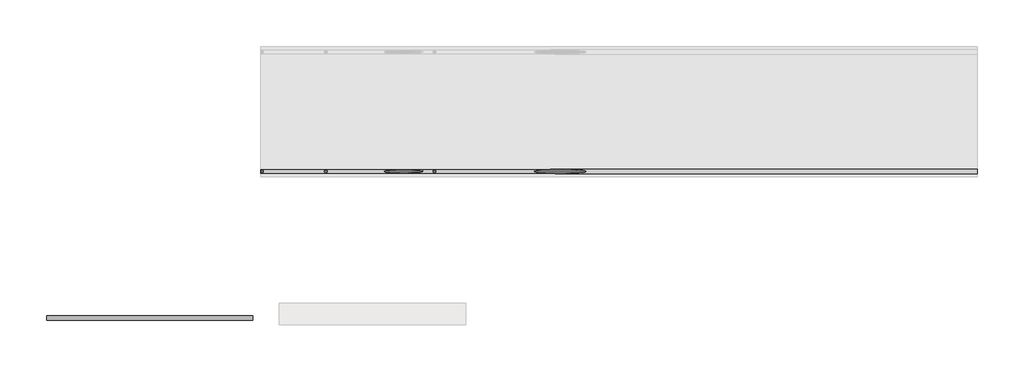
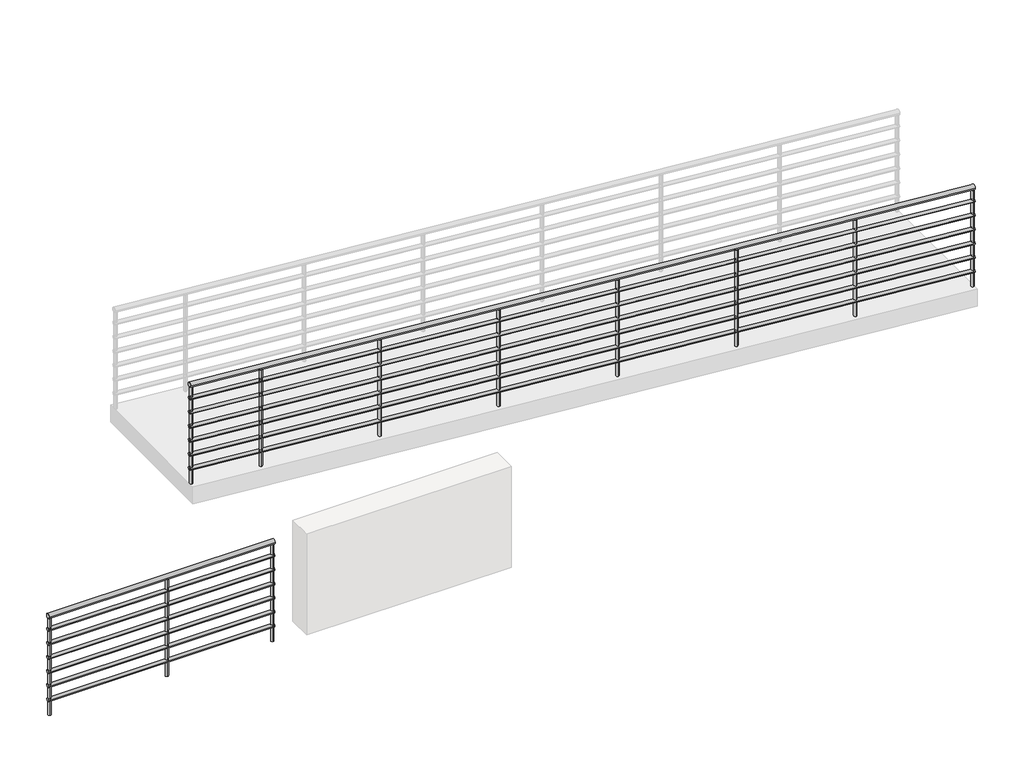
# One storey, part 2 of 3: 2 railings.
"""IFC4 building model written with IfcOpenShell, lengths in millimetres."""

from ifc_helpers import new_model, si_unit, point, frame, frame_2d, origin, place, context, project, spatial, circle_curve, ellipse_curve, trimmed, segment, composite_curve, outline, extrude, element, save
from ifc_brep_helpers import plane_surface, cylinder_surface, advanced_brep

model = new_model("IFC4")

# Units and contexts
model_context = context("Model", 3, world=origin())
ifc_project = project(units=[si_unit("LENGTHUNIT", "METRE", prefix="MILLI")], contexts=[model_context])

# Site, building, storey
site = spatial("IfcSite", under=ifc_project)
building = spatial("IfcBuilding", under=site)
storey = spatial("IfcBuildingStorey", under=building, Name="00-NBeS SITE/FIRE APPLIANCE ACCESS LEVEL", Elevation=-300.0)

# Railings
placement = place(None, origin())
element("IfcRailing", 1, ObjectType="900mm Pipe", at=placement, inside=storey, context=model_context, shape_type="SweptSolid", body=[
    extrude(outline(composite_curve([segment(trimmed(circle_curve(frame_2d((-14390.7713503, 580.0)), 20.0), [point((-14410.7713503, 580.0))], [point((-14370.7713503, 580.0))], False, "CARTESIAN"), True, "CONTINUOUS"), segment(trimmed(circle_curve(frame_2d((-14390.7713503, 580.0)), 20.0), [point((-14370.7713503, 580.0))], [point((-14410.7713503, 580.0))], False, "CARTESIAN"), True, "CONTINUOUS")], self_intersect=False)), frame((-86889.0756201, 0.0, 0.0), z_axis=(1.0, 0.0, 0.0), x_axis=(0.0, 1.0, 0.0)), (0.0, 0.0, 1.0), 1900.0),
    extrude(outline(composite_curve([segment(trimmed(circle_curve(frame_2d((-14390.7713503, 460.0)), 15.0), [point((-14375.7713503, 460.0))], [point((-14405.7713503, 460.0))], False, "CARTESIAN"), True, "CONTINUOUS"), segment(trimmed(circle_curve(frame_2d((-14390.7713503, 460.0)), 15.0), [point((-14405.7713503, 460.0))], [point((-14375.7713503, 460.0))], False, "CARTESIAN"), True, "CONTINUOUS")], self_intersect=False)), frame((-86889.0756201, 0.0, 0.0), z_axis=(1.0, 0.0, 0.0), x_axis=(0.0, 1.0, 0.0)), (0.0, 0.0, 1.0), 1900.0),
    extrude(outline(composite_curve([segment(trimmed(circle_curve(frame_2d((-14390.7713503, 335.0)), 15.0), [point((-14375.7713503, 335.0))], [point((-14405.7713503, 335.0))], False, "CARTESIAN"), True, "CONTINUOUS"), segment(trimmed(circle_curve(frame_2d((-14390.7713503, 335.0)), 15.0), [point((-14405.7713503, 335.0))], [point((-14375.7713503, 335.0))], False, "CARTESIAN"), True, "CONTINUOUS")], self_intersect=False)), frame((-86889.0756201, 0.0, 0.0), z_axis=(1.0, 0.0, 0.0), x_axis=(0.0, 1.0, 0.0)), (0.0, 0.0, 1.0), 1900.0),
    extrude(outline(composite_curve([segment(trimmed(circle_curve(frame_2d((-14390.7713503, 210.0)), 15.0), [point((-14375.7713503, 210.0))], [point((-14405.7713503, 210.0))], False, "CARTESIAN"), True, "CONTINUOUS"), segment(trimmed(circle_curve(frame_2d((-14390.7713503, 210.0)), 15.0), [point((-14405.7713503, 210.0))], [point((-14375.7713503, 210.0))], False, "CARTESIAN"), True, "CONTINUOUS")], self_intersect=False)), frame((-86889.0756201, 0.0, 0.0), z_axis=(1.0, 0.0, 0.0), x_axis=(0.0, 1.0, 0.0)), (0.0, 0.0, 1.0), 1900.0),
    extrude(outline(composite_curve([segment(trimmed(circle_curve(frame_2d((-14390.7713503, 85.0)), 15.0), [point((-14375.7713503, 85.0))], [point((-14405.7713503, 85.0))], False, "CARTESIAN"), True, "CONTINUOUS"), segment(trimmed(circle_curve(frame_2d((-14390.7713503, 85.0)), 15.0), [point((-14405.7713503, 85.0))], [point((-14375.7713503, 85.0))], False, "CARTESIAN"), True, "CONTINUOUS")], self_intersect=False)), frame((-86889.0756201, 0.0, 0.0), z_axis=(1.0, 0.0, 0.0), x_axis=(0.0, 1.0, 0.0)), (0.0, 0.0, 1.0), 1900.0),
    extrude(outline(composite_curve([segment(trimmed(circle_curve(frame_2d((-14390.7713503, -40.0)), 15.0), [point((-14375.7713503, -40.0))], [point((-14405.7713503, -40.0))], False, "CARTESIAN"), True, "CONTINUOUS"), segment(trimmed(circle_curve(frame_2d((-14390.7713503, -40.0)), 15.0), [point((-14405.7713503, -40.0))], [point((-14375.7713503, -40.0))], False, "CARTESIAN"), True, "CONTINUOUS")], self_intersect=False)), frame((-86889.0756201, 0.0, 0.0), z_axis=(1.0, 0.0, 0.0), x_axis=(0.0, 1.0, 0.0)), (0.0, 0.0, 1.0), 1900.0),
    extrude(outline(composite_curve([segment(trimmed(circle_curve(frame_2d((-14390.7713503, -165.0)), 15.0), [point((-14375.7713503, -165.0))], [point((-14405.7713503, -165.0))], False, "CARTESIAN"), True, "CONTINUOUS"), segment(trimmed(circle_curve(frame_2d((-14390.7713503, -165.0)), 15.0), [point((-14405.7713503, -165.0))], [point((-14375.7713503, -165.0))], False, "CARTESIAN"), True, "CONTINUOUS")], self_intersect=False)), frame((-86889.0756201, 0.0, 0.0), z_axis=(1.0, 0.0, 0.0), x_axis=(0.0, 1.0, 0.0)), (0.0, 0.0, 1.0), 1900.0),
    extrude(outline(composite_curve([segment(trimmed(circle_curve(frame_2d((-85889.0756201, -14390.7713503)), 12.5), [point((-85889.0756201, -14378.2713503))], [point((-85889.0756201, -14403.2713503))], False, "CARTESIAN"), True, "CONTINUOUS"), segment(trimmed(circle_curve(frame_2d((-85889.0756201, -14390.7713503)), 12.5), [point((-85889.0756201, -14403.2713503))], [point((-85889.0756201, -14378.2713503))], False, "CARTESIAN"), True, "CONTINUOUS")], self_intersect=False)), frame((0.0, 0.0, -300.0), z_axis=(0.0, 0.0, 1.0), x_axis=(1.0, 0.0, 0.0)), (0.0, 0.0, 1.0), 860.0),
    extrude(outline(composite_curve([segment(trimmed(circle_curve(frame_2d((-85001.5756201, -14390.7713503)), 12.5), [point((-85001.5756201, -14378.2713503))], [point((-85001.5756201, -14403.2713503))], False, "CARTESIAN"), True, "CONTINUOUS"), segment(trimmed(circle_curve(frame_2d((-85001.5756201, -14390.7713503)), 12.5), [point((-85001.5756201, -14403.2713503))], [point((-85001.5756201, -14378.2713503))], False, "CARTESIAN"), True, "CONTINUOUS")], self_intersect=False)), frame((0.0, 0.0, -300.0), z_axis=(0.0, 0.0, 1.0), x_axis=(1.0, 0.0, 0.0)), (0.0, 0.0, 1.0), 860.0),
    extrude(outline(composite_curve([segment(trimmed(circle_curve(frame_2d((-86876.5756201, -14390.7713503)), 12.5), [point((-86876.5756201, -14378.2713503))], [point((-86876.5756201, -14403.2713503))], False, "CARTESIAN"), True, "CONTINUOUS"), segment(trimmed(circle_curve(frame_2d((-86876.5756201, -14390.7713503)), 12.5), [point((-86876.5756201, -14403.2713503))], [point((-86876.5756201, -14378.2713503))], False, "CARTESIAN"), True, "CONTINUOUS")], self_intersect=False)), frame((0.0, 0.0, -300.0), z_axis=(0.0, 0.0, 1.0), x_axis=(1.0, 0.0, 0.0)), (0.0, 0.0, 1.0), 860.0),
])
element("IfcRailing", 2, ObjectType="900mm Pipe", at=placement, inside=storey, context=model_context, shape_type="AdvancedBrep", body=[
    advanced_brep(
    [(-78318.4618294, -13020.679374, 579.9306757), (-78318.4618294, -13060.679374, 579.9306757), (-84918.4618294, -13020.679374, 1129.9306757), (-84918.4618294, -13060.679374, 1129.9306757)],
    [
        (0, 1, ellipse_curve(frame((-78318.4618294, -13040.679374, 579.9306757), z_axis=(1.0, 0.0, 0.0), x_axis=(0.0, 0.0, -0.9999999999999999)), 20.0693243, 20.0)),
        (1, 0, ellipse_curve(frame((-78318.4618294, -13040.679374, 579.9306757), z_axis=(1.0, 0.0, 0.0), x_axis=(0.0, 0.0, -0.9999999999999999)), 20.0693243, 20.0)),
        (2, 3, ellipse_curve(frame((-84918.4618294, -13040.679374, 1129.9306757), z_axis=(-1.0, 0.0, 0.0), x_axis=(0.0, 0.0, -0.9999999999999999)), 20.0693243, 20.0)),
        (3, 2, ellipse_curve(frame((-84918.4618294, -13040.679374, 1129.9306757), z_axis=(-1.0, 0.0, 0.0), x_axis=(0.0, 0.0, -0.9999999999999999)), 20.0693243, 20.0)),
        (0, 2),
        (3, 1),
    ],
    [
        plane_surface(frame((-78318.4618294, -13040.679374, 600.0), z_axis=(1.0, 0.0, 0.0), x_axis=(0.0, -1.0, 0.0))),
        plane_surface(frame((-84918.4618294, -13040.679374, 1150.0), z_axis=(-1.0, 0.0, 0.0), x_axis=(0.0, -1.0, 0.0))),
        cylinder_surface(frame((-78320.122739, -13040.679374, 580.0690848), z_axis=(0.9965457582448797, 0.0, -0.08304547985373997), x_axis=(0.0, -1.0, 0.0)), 20.0),
    ],
    [
        (0, [[1, 2]]),
        (1, [[3, 4]]),
        (2, [[-1, 5, -4, 6]]),
        (2, [[-2, -6, -3, -5]]),
    ],
),
    advanced_brep(
    [(-78318.4618294, -13055.679374, 459.9480068), (-78318.4618294, -13025.679374, 459.9480068), (-84918.4618294, -13055.679374, 1009.9480068), (-84918.4618294, -13025.679374, 1009.9480068)],
    [
        (0, 1, ellipse_curve(frame((-78318.4618294, -13040.679374, 459.9480068), z_axis=(1.0, 0.0, 0.0), x_axis=(0.0, 0.0, -0.9999999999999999)), 15.0519932, 15.0)),
        (1, 0, ellipse_curve(frame((-78318.4618294, -13040.679374, 459.9480068), z_axis=(1.0, 0.0, 0.0), x_axis=(0.0, 0.0, -0.9999999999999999)), 15.0519932, 15.0)),
        (2, 3, ellipse_curve(frame((-84918.4618294, -13040.679374, 1009.9480068), z_axis=(-1.0, 0.0, 0.0), x_axis=(0.0, 0.0, -0.9999999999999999)), 15.0519932, 15.0)),
        (3, 2, ellipse_curve(frame((-84918.4618294, -13040.679374, 1009.9480068), z_axis=(-1.0, 0.0, 0.0), x_axis=(0.0, 0.0, -0.9999999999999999)), 15.0519932, 15.0)),
        (0, 2),
        (3, 1),
    ],
    [
        plane_surface(frame((-78318.4618294, -13040.679374, 475.0), z_axis=(1.0, 0.0, 0.0), x_axis=(0.0, -1.0, 0.0))),
        plane_surface(frame((-84918.4618294, -13040.679374, 1025.0), z_axis=(-1.0, 0.0, 0.0), x_axis=(0.0, -1.0, 0.0))),
        cylinder_surface(frame((-78319.7075116, -13040.679374, 460.0518136), z_axis=(0.9965457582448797, 0.0, -0.08304547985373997), x_axis=(0.0, 1.0, 0.0)), 15.0),
    ],
    [
        (0, [[1, 2]]),
        (1, [[3, 4]]),
        (2, [[-1, 5, -4, 6]]),
        (2, [[-2, -6, -3, -5]]),
    ],
),
    advanced_brep(
    [(-78318.4618294, -13055.679374, 334.9480068), (-78318.4618294, -13025.679374, 334.9480068), (-84918.4618294, -13055.679374, 884.9480068), (-84918.4618294, -13025.679374, 884.9480068)],
    [
        (0, 1, ellipse_curve(frame((-78318.4618294, -13040.679374, 334.9480068), z_axis=(1.0, 0.0, 0.0), x_axis=(0.0, 0.0, -0.9999999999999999)), 15.0519932, 15.0)),
        (1, 0, ellipse_curve(frame((-78318.4618294, -13040.679374, 334.9480068), z_axis=(1.0, 0.0, 0.0), x_axis=(0.0, 0.0, -0.9999999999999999)), 15.0519932, 15.0)),
        (2, 3, ellipse_curve(frame((-84918.4618294, -13040.679374, 884.9480068), z_axis=(-1.0, 0.0, 0.0), x_axis=(0.0, 0.0, -0.9999999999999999)), 15.0519932, 15.0)),
        (3, 2, ellipse_curve(frame((-84918.4618294, -13040.679374, 884.9480068), z_axis=(-1.0, 0.0, 0.0), x_axis=(0.0, 0.0, -0.9999999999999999)), 15.0519932, 15.0)),
        (0, 2),
        (3, 1),
    ],
    [
        plane_surface(frame((-78318.4618294, -13040.679374, 350.0), z_axis=(1.0, 0.0, 0.0), x_axis=(0.0, -1.0, 0.0))),
        plane_surface(frame((-84918.4618294, -13040.679374, 900.0), z_axis=(-1.0, 0.0, 0.0), x_axis=(0.0, -1.0, 0.0))),
        cylinder_surface(frame((-78319.7075116, -13040.679374, 335.0518136), z_axis=(0.9965457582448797, 0.0, -0.08304547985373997), x_axis=(0.0, 1.0, 0.0)), 15.0),
    ],
    [
        (0, [[1, 2]]),
        (1, [[3, 4]]),
        (2, [[-1, 5, -4, 6]]),
        (2, [[-2, -6, -3, -5]]),
    ],
),
    advanced_brep(
    [(-78318.4618294, -13055.679374, 209.9480068), (-78318.4618294, -13025.679374, 209.9480068), (-84918.4618294, -13055.679374, 759.9480068), (-84918.4618294, -13025.679374, 759.9480068)],
    [
        (0, 1, ellipse_curve(frame((-78318.4618294, -13040.679374, 209.9480068), z_axis=(1.0, 0.0, 0.0), x_axis=(0.0, 0.0, -0.9999999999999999)), 15.0519932, 15.0)),
        (1, 0, ellipse_curve(frame((-78318.4618294, -13040.679374, 209.9480068), z_axis=(1.0, 0.0, 0.0), x_axis=(0.0, 0.0, -0.9999999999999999)), 15.0519932, 15.0)),
        (2, 3, ellipse_curve(frame((-84918.4618294, -13040.679374, 759.9480068), z_axis=(-1.0, 0.0, 0.0), x_axis=(0.0, 0.0, -0.9999999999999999)), 15.0519932, 15.0)),
        (3, 2, ellipse_curve(frame((-84918.4618294, -13040.679374, 759.9480068), z_axis=(-1.0, 0.0, 0.0), x_axis=(0.0, 0.0, -0.9999999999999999)), 15.0519932, 15.0)),
        (0, 2),
        (3, 1),
    ],
    [
        plane_surface(frame((-78318.4618294, -13040.679374, 225.0), z_axis=(1.0, 0.0, 0.0), x_axis=(0.0, -1.0, 0.0))),
        plane_surface(frame((-84918.4618294, -13040.679374, 775.0), z_axis=(-1.0, 0.0, 0.0), x_axis=(0.0, -1.0, 0.0))),
        cylinder_surface(frame((-78319.7075116, -13040.679374, 210.0518136), z_axis=(0.9965457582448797, 0.0, -0.08304547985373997), x_axis=(0.0, 1.0, 0.0)), 15.0),
    ],
    [
        (0, [[1, 2]]),
        (1, [[3, 4]]),
        (2, [[-1, 5, -4, 6]]),
        (2, [[-2, -6, -3, -5]]),
    ],
),
    advanced_brep(
    [(-78318.4618294, -13055.679374, 84.9480068), (-78318.4618294, -13025.679374, 84.9480068), (-84918.4618294, -13055.679374, 634.9480068), (-84918.4618294, -13025.679374, 634.9480068)],
    [
        (0, 1, ellipse_curve(frame((-78318.4618294, -13040.679374, 84.9480068), z_axis=(1.0, 0.0, 0.0), x_axis=(0.0, 0.0, -0.9999999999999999)), 15.0519932, 15.0)),
        (1, 0, ellipse_curve(frame((-78318.4618294, -13040.679374, 84.9480068), z_axis=(1.0, 0.0, 0.0), x_axis=(0.0, 0.0, -0.9999999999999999)), 15.0519932, 15.0)),
        (2, 3, ellipse_curve(frame((-84918.4618294, -13040.679374, 634.9480068), z_axis=(-1.0, 0.0, 0.0), x_axis=(0.0, 0.0, -0.9999999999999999)), 15.0519932, 15.0)),
        (3, 2, ellipse_curve(frame((-84918.4618294, -13040.679374, 634.9480068), z_axis=(-1.0, 0.0, 0.0), x_axis=(0.0, 0.0, -0.9999999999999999)), 15.0519932, 15.0)),
        (0, 2),
        (3, 1),
    ],
    [
        plane_surface(frame((-78318.4618294, -13040.679374, 100.0), z_axis=(1.0, 0.0, 0.0), x_axis=(0.0, -1.0, 0.0))),
        plane_surface(frame((-84918.4618294, -13040.679374, 650.0), z_axis=(-1.0, 0.0, 0.0), x_axis=(0.0, -1.0, 0.0))),
        cylinder_surface(frame((-78319.7075116, -13040.679374, 85.0518136), z_axis=(0.9965457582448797, 0.0, -0.08304547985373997), x_axis=(0.0, 1.0, 0.0)), 15.0),
    ],
    [
        (0, [[1, 2]]),
        (1, [[3, 4]]),
        (2, [[-1, 5, -4, 6]]),
        (2, [[-2, -6, -3, -5]]),
    ],
),
    advanced_brep(
    [(-78318.4618294, -13055.679374, -40.0519932), (-78318.4618294, -13025.679374, -40.0519932), (-84918.4618294, -13055.679374, 509.9480068), (-84918.4618294, -13025.679374, 509.9480068)],
    [
        (0, 1, ellipse_curve(frame((-78318.4618294, -13040.679374, -40.0519932), z_axis=(1.0, 0.0, 0.0), x_axis=(0.0, 0.0, -0.9999999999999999)), 15.0519932, 15.0)),
        (1, 0, ellipse_curve(frame((-78318.4618294, -13040.679374, -40.0519932), z_axis=(1.0, 0.0, 0.0), x_axis=(0.0, 0.0, -0.9999999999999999)), 15.0519932, 15.0)),
        (2, 3, ellipse_curve(frame((-84918.4618294, -13040.679374, 509.9480068), z_axis=(-1.0, 0.0, 0.0), x_axis=(0.0, 0.0, -0.9999999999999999)), 15.0519932, 15.0)),
        (3, 2, ellipse_curve(frame((-84918.4618294, -13040.679374, 509.9480068), z_axis=(-1.0, 0.0, 0.0), x_axis=(0.0, 0.0, -0.9999999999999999)), 15.0519932, 15.0)),
        (0, 2),
        (3, 1),
    ],
    [
        plane_surface(frame((-78318.4618294, -13040.679374, -25.0), z_axis=(1.0, 0.0, 0.0), x_axis=(0.0, -1.0, 0.0))),
        plane_surface(frame((-84918.4618294, -13040.679374, 525.0), z_axis=(-1.0, 0.0, 0.0), x_axis=(0.0, -1.0, 0.0))),
        cylinder_surface(frame((-78319.7075116, -13040.679374, -39.9481864), z_axis=(0.9965457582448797, 0.0, -0.08304547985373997), x_axis=(0.0, 1.0, 0.0)), 15.0),
    ],
    [
        (0, [[1, 2]]),
        (1, [[3, 4]]),
        (2, [[-1, 5, -4, 6]]),
        (2, [[-2, -6, -3, -5]]),
    ],
),
    advanced_brep(
    [(-78318.4618294, -13055.679374, -165.0519932), (-78318.4618294, -13025.679374, -165.0519932), (-84918.4618294, -13055.679374, 384.9480068), (-84918.4618294, -13025.679374, 384.9480068)],
    [
        (0, 1, ellipse_curve(frame((-78318.4618294, -13040.679374, -165.0519932), z_axis=(1.0, 0.0, 0.0), x_axis=(0.0, 0.0, -0.9999999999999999)), 15.0519932, 15.0)),
        (1, 0, ellipse_curve(frame((-78318.4618294, -13040.679374, -165.0519932), z_axis=(1.0, 0.0, 0.0), x_axis=(0.0, 0.0, -0.9999999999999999)), 15.0519932, 15.0)),
        (2, 3, ellipse_curve(frame((-84918.4618294, -13040.679374, 384.9480068), z_axis=(-1.0, 0.0, 0.0), x_axis=(0.0, 0.0, -0.9999999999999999)), 15.0519932, 15.0)),
        (3, 2, ellipse_curve(frame((-84918.4618294, -13040.679374, 384.9480068), z_axis=(-1.0, 0.0, 0.0), x_axis=(0.0, 0.0, -0.9999999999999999)), 15.0519932, 15.0)),
        (0, 2),
        (3, 1),
    ],
    [
        plane_surface(frame((-78318.4618294, -13040.679374, -150.0), z_axis=(1.0, 0.0, 0.0), x_axis=(0.0, -1.0, 0.0))),
        plane_surface(frame((-84918.4618294, -13040.679374, 400.0), z_axis=(-1.0, 0.0, 0.0), x_axis=(0.0, -1.0, 0.0))),
        cylinder_surface(frame((-78319.7075116, -13040.679374, -164.9481864), z_axis=(0.9965457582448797, 0.0, -0.08304547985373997), x_axis=(0.0, 1.0, 0.0)), 15.0),
    ],
    [
        (0, [[1, 2]]),
        (1, [[3, 4]]),
        (2, [[-1, 5, -4, 6]]),
        (2, [[-2, -6, -3, -5]]),
    ],
),
    advanced_brep(
    [(-84318.4618294, -13028.179374, 1059.8613514), (-84318.4618294, -13028.179374, 200.0), (-84318.4618294, -13053.179374, 200.0), (-84318.4618294, -13053.179374, 1059.8613514)],
    [
        (0, 1),
        (1, 2, ellipse_curve(frame((-84318.4618294, -13040.679374, 200.0), z_axis=(0.08304547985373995, 0.0, 0.9965457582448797), x_axis=(-0.9965457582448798, 0.0, 0.08304547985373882)), 12.5433277, 12.5)),
        (2, 3),
        (3, 0, ellipse_curve(frame((-84318.4618294, -13040.679374, 1059.8613514), z_axis=(-0.08304547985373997, 0.0, -0.9965457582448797), x_axis=(-0.9965457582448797, 0.0, 0.0830454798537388)), 12.5433277, 12.5)),
        (0, 3, ellipse_curve(frame((-84318.4618294, -13040.679374, 1059.8613514), z_axis=(-0.08304547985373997, 0.0, -0.9965457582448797), x_axis=(-0.9965457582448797, 0.0, 0.0830454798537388)), 12.5433277, 12.5)),
        (2, 1, ellipse_curve(frame((-84318.4618294, -13040.679374, 200.0), z_axis=(0.08304547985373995, 0.0, 0.9965457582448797), x_axis=(-0.9965457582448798, 0.0, 0.08304547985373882)), 12.5433277, 12.5)),
    ],
    [
        cylinder_surface(frame((-84318.4618294, -13040.679374, 100.0), z_axis=(0.0, 0.0, 1.0), x_axis=(0.0, -1.0, 0.0)), 12.5),
        plane_surface(frame((-84343.4618294, -13065.679374, 1061.9446847), z_axis=(0.08304547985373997, 0.0, 0.9965457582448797), x_axis=(0.0, 1.0, 0.0))),
        plane_surface(frame((-84293.4618294, -13065.679374, 197.9166667), z_axis=(-0.08304547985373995, 0.0, -0.9965457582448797), x_axis=(0.0, 1.0, 0.0))),
    ],
    [
        (0, [[1, 2, 3, 4]]),
        (0, [[-1, 5, -3, 6]]),
        (1, [[-4, -5]]),
        (2, [[-2, -6]]),
    ],
),
    advanced_brep(
    [(-83318.4618294, -13028.179374, 976.5280181), (-83318.4618294, -13028.179374, 116.6666667), (-83318.4618294, -13053.179374, 116.6666667), (-83318.4618294, -13053.179374, 976.5280181)],
    [
        (0, 1),
        (1, 2, ellipse_curve(frame((-83318.4618294, -13040.679374, 116.6666667), z_axis=(0.08304547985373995, 0.0, 0.9965457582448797), x_axis=(-0.9965457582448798, 0.0, 0.08304547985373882)), 12.5433277, 12.5)),
        (2, 3),
        (3, 0, ellipse_curve(frame((-83318.4618294, -13040.679374, 976.5280181), z_axis=(-0.08304547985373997, 0.0, -0.9965457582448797), x_axis=(-0.9965457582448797, 0.0, 0.0830454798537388)), 12.5433277, 12.5)),
        (0, 3, ellipse_curve(frame((-83318.4618294, -13040.679374, 976.5280181), z_axis=(-0.08304547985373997, 0.0, -0.9965457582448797), x_axis=(-0.9965457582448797, 0.0, 0.0830454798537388)), 12.5433277, 12.5)),
        (2, 1, ellipse_curve(frame((-83318.4618294, -13040.679374, 116.6666667), z_axis=(0.08304547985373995, 0.0, 0.9965457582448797), x_axis=(-0.9965457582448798, 0.0, 0.08304547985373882)), 12.5433277, 12.5)),
    ],
    [
        cylinder_surface(frame((-83318.4618294, -13040.679374, 16.6666667), z_axis=(0.0, 0.0, 1.0), x_axis=(0.0, -1.0, 0.0)), 12.5),
        plane_surface(frame((-83343.4618294, -13065.679374, 978.6113514), z_axis=(0.08304547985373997, 0.0, 0.9965457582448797), x_axis=(0.0, 1.0, 0.0))),
        plane_surface(frame((-83293.4618294, -13065.679374, 114.5833333), z_axis=(-0.08304547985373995, 0.0, -0.9965457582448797), x_axis=(0.0, 1.0, 0.0))),
    ],
    [
        (0, [[1, 2, 3, 4]]),
        (0, [[-1, 5, -3, 6]]),
        (1, [[-4, -5]]),
        (2, [[-2, -6]]),
    ],
),
    advanced_brep(
    [(-82318.4618294, -13028.179374, 893.1946847), (-82318.4618294, -13028.179374, 33.3333333), (-82318.4618294, -13053.179374, 33.3333333), (-82318.4618294, -13053.179374, 893.1946847)],
    [
        (0, 1),
        (1, 2, ellipse_curve(frame((-82318.4618294, -13040.679374, 33.3333333), z_axis=(0.08304547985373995, 0.0, 0.9965457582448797), x_axis=(-0.9965457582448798, 0.0, 0.08304547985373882)), 12.5433277, 12.5)),
        (2, 3),
        (3, 0, ellipse_curve(frame((-82318.4618294, -13040.679374, 893.1946847), z_axis=(-0.08304547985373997, 0.0, -0.9965457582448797), x_axis=(-0.9965457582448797, 0.0, 0.0830454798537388)), 12.5433277, 12.5)),
        (0, 3, ellipse_curve(frame((-82318.4618294, -13040.679374, 893.1946847), z_axis=(-0.08304547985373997, 0.0, -0.9965457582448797), x_axis=(-0.9965457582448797, 0.0, 0.0830454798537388)), 12.5433277, 12.5)),
        (2, 1, ellipse_curve(frame((-82318.4618294, -13040.679374, 33.3333333), z_axis=(0.08304547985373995, 0.0, 0.9965457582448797), x_axis=(-0.9965457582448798, 0.0, 0.08304547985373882)), 12.5433277, 12.5)),
    ],
    [
        cylinder_surface(frame((-82318.4618294, -13040.679374, -66.6666667), z_axis=(0.0, 0.0, 1.0), x_axis=(0.0, -1.0, 0.0)), 12.5),
        plane_surface(frame((-82343.4618294, -13065.679374, 895.2780181), z_axis=(0.08304547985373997, 0.0, 0.9965457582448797), x_axis=(0.0, 1.0, 0.0))),
        plane_surface(frame((-82293.4618294, -13065.679374, 31.25), z_axis=(-0.08304547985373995, 0.0, -0.9965457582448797), x_axis=(0.0, 1.0, 0.0))),
    ],
    [
        (0, [[1, 2, 3, 4]]),
        (0, [[-1, 5, -3, 6]]),
        (1, [[-4, -5]]),
        (2, [[-2, -6]]),
    ],
),
    advanced_brep(
    [(-81318.4618294, -13028.179374, 809.8613514), (-81318.4618294, -13028.179374, -50.0), (-81318.4618294, -13053.179374, -50.0), (-81318.4618294, -13053.179374, 809.8613514)],
    [
        (0, 1),
        (1, 2, ellipse_curve(frame((-81318.4618294, -13040.679374, -50.0), z_axis=(0.08304547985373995, 0.0, 0.9965457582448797), x_axis=(-0.9965457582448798, 0.0, 0.08304547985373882)), 12.5433277, 12.5)),
        (2, 3),
        (3, 0, ellipse_curve(frame((-81318.4618294, -13040.679374, 809.8613514), z_axis=(-0.08304547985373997, 0.0, -0.9965457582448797), x_axis=(-0.9965457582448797, 0.0, 0.0830454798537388)), 12.5433277, 12.5)),
        (0, 3, ellipse_curve(frame((-81318.4618294, -13040.679374, 809.8613514), z_axis=(-0.08304547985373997, 0.0, -0.9965457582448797), x_axis=(-0.9965457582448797, 0.0, 0.0830454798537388)), 12.5433277, 12.5)),
        (2, 1, ellipse_curve(frame((-81318.4618294, -13040.679374, -50.0), z_axis=(0.08304547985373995, 0.0, 0.9965457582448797), x_axis=(-0.9965457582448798, 0.0, 0.08304547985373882)), 12.5433277, 12.5)),
    ],
    [
        cylinder_surface(frame((-81318.4618294, -13040.679374, -150.0), z_axis=(0.0, 0.0, 1.0), x_axis=(0.0, -1.0, 0.0)), 12.5),
        plane_surface(frame((-81343.4618294, -13065.679374, 811.9446847), z_axis=(0.08304547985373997, 0.0, 0.9965457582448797), x_axis=(0.0, 1.0, 0.0))),
        plane_surface(frame((-81293.4618294, -13065.679374, -52.0833333), z_axis=(-0.08304547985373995, 0.0, -0.9965457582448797), x_axis=(0.0, 1.0, 0.0))),
    ],
    [
        (0, [[1, 2, 3, 4]]),
        (0, [[-1, 5, -3, 6]]),
        (1, [[-4, -5]]),
        (2, [[-2, -6]]),
    ],
),
    advanced_brep(
    [(-80318.4618294, -13028.179374, 726.5280181), (-80318.4618294, -13028.179374, -133.3333333), (-80318.4618294, -13053.179374, -133.3333333), (-80318.4618294, -13053.179374, 726.5280181)],
    [
        (0, 1),
        (1, 2, ellipse_curve(frame((-80318.4618294, -13040.679374, -133.3333333), z_axis=(0.08304547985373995, 0.0, 0.9965457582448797), x_axis=(-0.9965457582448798, 0.0, 0.08304547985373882)), 12.5433277, 12.5)),
        (2, 3),
        (3, 0, ellipse_curve(frame((-80318.4618294, -13040.679374, 726.5280181), z_axis=(-0.08304547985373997, 0.0, -0.9965457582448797), x_axis=(-0.9965457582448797, 0.0, 0.0830454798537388)), 12.5433277, 12.5)),
        (0, 3, ellipse_curve(frame((-80318.4618294, -13040.679374, 726.5280181), z_axis=(-0.08304547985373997, 0.0, -0.9965457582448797), x_axis=(-0.9965457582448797, 0.0, 0.0830454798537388)), 12.5433277, 12.5)),
        (2, 1, ellipse_curve(frame((-80318.4618294, -13040.679374, -133.3333333), z_axis=(0.08304547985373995, 0.0, 0.9965457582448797), x_axis=(-0.9965457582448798, 0.0, 0.08304547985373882)), 12.5433277, 12.5)),
    ],
    [
        cylinder_surface(frame((-80318.4618294, -13040.679374, -233.3333333), z_axis=(0.0, 0.0, 1.0), x_axis=(0.0, -1.0, 0.0)), 12.5),
        plane_surface(frame((-80343.4618294, -13065.679374, 728.6113514), z_axis=(0.08304547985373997, 0.0, 0.9965457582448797), x_axis=(0.0, 1.0, 0.0))),
        plane_surface(frame((-80293.4618294, -13065.679374, -135.4166667), z_axis=(-0.08304547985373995, 0.0, -0.9965457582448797), x_axis=(0.0, 1.0, 0.0))),
    ],
    [
        (0, [[1, 2, 3, 4]]),
        (0, [[-1, 5, -3, 6]]),
        (1, [[-4, -5]]),
        (2, [[-2, -6]]),
    ],
),
    advanced_brep(
    [(-79318.4618294, -13028.179374, 643.1946847), (-79318.4618294, -13028.179374, -216.6666667), (-79318.4618294, -13053.179374, -216.6666667), (-79318.4618294, -13053.179374, 643.1946847)],
    [
        (0, 1),
        (1, 2, ellipse_curve(frame((-79318.4618294, -13040.679374, -216.6666667), z_axis=(0.08304547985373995, 0.0, 0.9965457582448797), x_axis=(-0.9965457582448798, 0.0, 0.08304547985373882)), 12.5433277, 12.5)),
        (2, 3),
        (3, 0, ellipse_curve(frame((-79318.4618294, -13040.679374, 643.1946847), z_axis=(-0.08304547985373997, 0.0, -0.9965457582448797), x_axis=(-0.9965457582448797, 0.0, 0.0830454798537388)), 12.5433277, 12.5)),
        (0, 3, ellipse_curve(frame((-79318.4618294, -13040.679374, 643.1946847), z_axis=(-0.08304547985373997, 0.0, -0.9965457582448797), x_axis=(-0.9965457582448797, 0.0, 0.0830454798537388)), 12.5433277, 12.5)),
        (2, 1, ellipse_curve(frame((-79318.4618294, -13040.679374, -216.6666667), z_axis=(0.08304547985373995, 0.0, 0.9965457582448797), x_axis=(-0.9965457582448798, 0.0, 0.08304547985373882)), 12.5433277, 12.5)),
    ],
    [
        cylinder_surface(frame((-79318.4618294, -13040.679374, -316.6666667), z_axis=(0.0, 0.0, 1.0), x_axis=(0.0, -1.0, 0.0)), 12.5),
        plane_surface(frame((-79343.4618294, -13065.679374, 645.2780181), z_axis=(0.08304547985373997, 0.0, 0.9965457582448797), x_axis=(0.0, 1.0, 0.0))),
        plane_surface(frame((-79293.4618294, -13065.679374, -218.75), z_axis=(-0.08304547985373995, 0.0, -0.9965457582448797), x_axis=(0.0, 1.0, 0.0))),
    ],
    [
        (0, [[1, 2, 3, 4]]),
        (0, [[-1, 5, -3, 6]]),
        (1, [[-4, -5]]),
        (2, [[-2, -6]]),
    ],
),
    advanced_brep(
    [(-84905.9618294, -13028.179374, 1108.8196847), (-84905.9618294, -13028.179374, 248.9583333), (-84905.9618294, -13053.179374, 248.9583333), (-84905.9618294, -13053.179374, 1108.8196847)],
    [
        (0, 1),
        (1, 2, ellipse_curve(frame((-84905.9618294, -13040.679374, 248.9583333), z_axis=(0.08304547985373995, 0.0, 0.9965457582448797), x_axis=(-0.9965457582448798, 0.0, 0.08304547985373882)), 12.5433277, 12.5)),
        (2, 3),
        (3, 0, ellipse_curve(frame((-84905.9618294, -13040.679374, 1108.8196847), z_axis=(-0.08304547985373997, 0.0, -0.9965457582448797), x_axis=(-0.9965457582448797, 0.0, 0.0830454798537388)), 12.5433277, 12.5)),
        (0, 3, ellipse_curve(frame((-84905.9618294, -13040.679374, 1108.8196847), z_axis=(-0.08304547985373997, 0.0, -0.9965457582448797), x_axis=(-0.9965457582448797, 0.0, 0.0830454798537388)), 12.5433277, 12.5)),
        (2, 1, ellipse_curve(frame((-84905.9618294, -13040.679374, 248.9583333), z_axis=(0.08304547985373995, 0.0, 0.9965457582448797), x_axis=(-0.9965457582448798, 0.0, 0.08304547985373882)), 12.5433277, 12.5)),
    ],
    [
        cylinder_surface(frame((-84905.9618294, -13040.679374, 148.9583333), z_axis=(0.0, 0.0, 1.0), x_axis=(0.0, -1.0, 0.0)), 12.5),
        plane_surface(frame((-84930.9618294, -13065.679374, 1110.9030181), z_axis=(0.08304547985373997, 0.0, 0.9965457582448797), x_axis=(0.0, 1.0, 0.0))),
        plane_surface(frame((-84880.9618294, -13065.679374, 246.875), z_axis=(-0.08304547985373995, 0.0, -0.9965457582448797), x_axis=(0.0, 1.0, 0.0))),
    ],
    [
        (0, [[1, 2, 3, 4]]),
        (0, [[-1, 5, -3, 6]]),
        (1, [[-4, -5]]),
        (2, [[-2, -6]]),
    ],
),
    advanced_brep(
    [(-78330.9618294, -13028.179374, 560.9030181), (-78330.9618294, -13028.179374, -298.9583333), (-78330.9618294, -13053.179374, -298.9583333), (-78330.9618294, -13053.179374, 560.9030181)],
    [
        (0, 1),
        (1, 2, ellipse_curve(frame((-78330.9618294, -13040.679374, -298.9583333), z_axis=(0.08304547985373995, 0.0, 0.9965457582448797), x_axis=(-0.9965457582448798, 0.0, 0.08304547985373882)), 12.5433277, 12.5)),
        (2, 3),
        (3, 0, ellipse_curve(frame((-78330.9618294, -13040.679374, 560.9030181), z_axis=(-0.08304547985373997, 0.0, -0.9965457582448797), x_axis=(-0.9965457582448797, 0.0, 0.0830454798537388)), 12.5433277, 12.5)),
        (0, 3, ellipse_curve(frame((-78330.9618294, -13040.679374, 560.9030181), z_axis=(-0.08304547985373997, 0.0, -0.9965457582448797), x_axis=(-0.9965457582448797, 0.0, 0.0830454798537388)), 12.5433277, 12.5)),
        (2, 1, ellipse_curve(frame((-78330.9618294, -13040.679374, -298.9583333), z_axis=(0.08304547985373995, 0.0, 0.9965457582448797), x_axis=(-0.9965457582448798, 0.0, 0.08304547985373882)), 12.5433277, 12.5)),
    ],
    [
        cylinder_surface(frame((-78330.9618294, -13040.679374, -398.9583333), z_axis=(0.0, 0.0, 1.0), x_axis=(0.0, -1.0, 0.0)), 12.5),
        plane_surface(frame((-78355.9618294, -13065.679374, 562.9863514), z_axis=(0.08304547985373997, 0.0, 0.9965457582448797), x_axis=(0.0, 1.0, 0.0))),
        plane_surface(frame((-78305.9618294, -13065.679374, -301.0416667), z_axis=(-0.08304547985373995, 0.0, -0.9965457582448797), x_axis=(0.0, 1.0, 0.0))),
    ],
    [
        (0, [[1, 2, 3, 4]]),
        (0, [[-1, 5, -3, 6]]),
        (1, [[-4, -5]]),
        (2, [[-2, -6]]),
    ],
),
])

save(model, "model.ifc")
